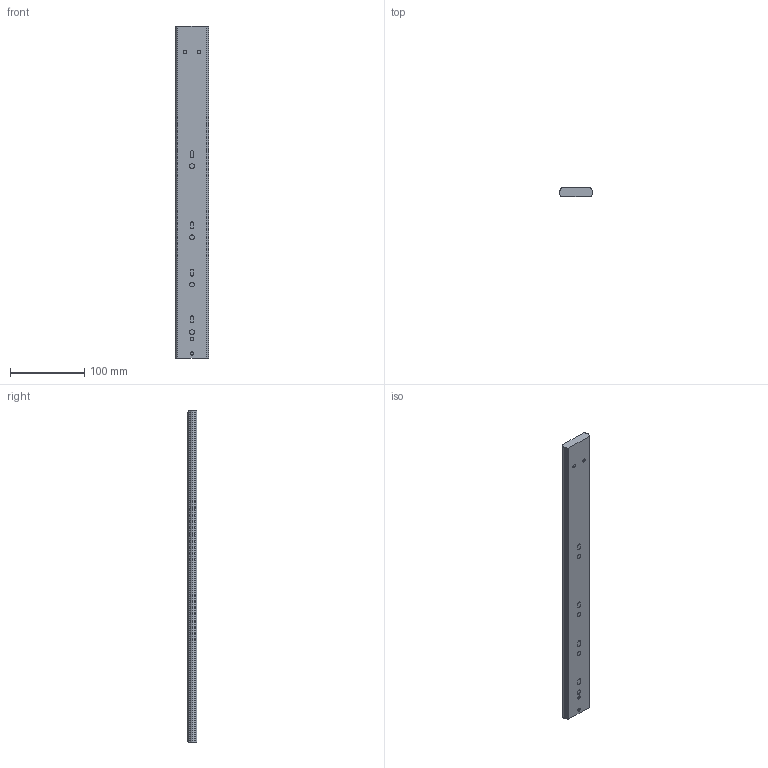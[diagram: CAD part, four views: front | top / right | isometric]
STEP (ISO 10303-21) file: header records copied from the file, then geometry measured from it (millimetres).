
FILE_DESCRIPTION (( 'STEP AP203' ), '1' );
FILE_NAME ('4587118H(¹Ø).STEP', '2020-02-13T09:04:21', ( 'ZZG' ), ( 'Microsoft' ), 'SwSTEP 2.0', 'SolidWorks 2012', '' );
FILE_SCHEMA (( 'CONFIG_CONTROL_DESIGN' ));
Length unit declared in the file: millimetre
Products named in the file (1): 4587118H(壽)
Bounding box: 45.57 x 12.7 x 448 mm (x, y, z)
Volume: 234765.7 mm3; surface area: 49393.6 mm2
Topology: 1 solids, 1 shells, 190 faces, 498 edges, 330 vertices
Faces by surface type: cylinder 99, plane 81, cone 6, bspline 4
Entity records: 6143 total; most frequent: CARTESIAN_POINT 1263, DIRECTION 1030, ORIENTED_EDGE 996, EDGE_CURVE 498, AXIS2_PLACEMENT_3D 379, VERTEX_POINT 330, VECTOR 272, LINE 272
